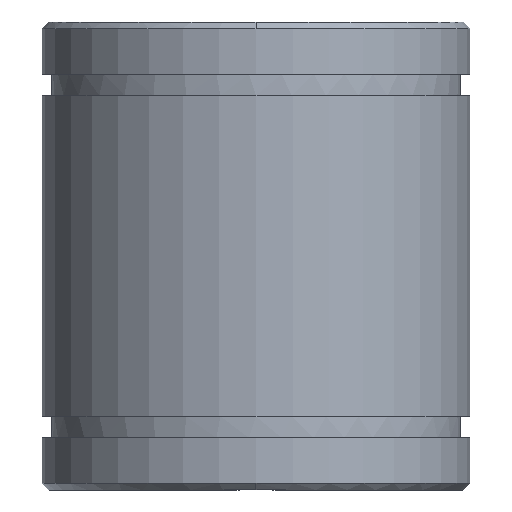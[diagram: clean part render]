
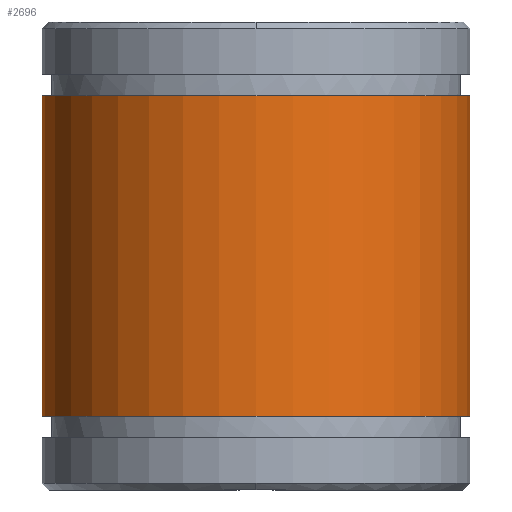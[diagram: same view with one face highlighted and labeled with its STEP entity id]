
A CAD part, front view. The second image highlights one B-rep face of the part: STEP entity #2696.
In plain terms, the highlighted cylindrical face has radius 16 mm (diameter 32 mm), a partial arc.
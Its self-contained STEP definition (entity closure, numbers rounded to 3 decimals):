
#2594=CARTESIAN_POINT('Axis2P3D Location',(0.,0.,5.5)) ;
#2598=CARTESIAN_POINT('Vertex',(-16.,0.,5.5)) ;
#2600=CARTESIAN_POINT('Vertex',(16.,0.,5.5)) ;
#2666=CARTESIAN_POINT('Axis2P3D Location',(0.,0.,-1.75)) ;
#2671=CARTESIAN_POINT('Line Origine',(-16.,0.,-1.75)) ;
#2675=CARTESIAN_POINT('Vertex',(-16.,0.,29.5)) ;
#2678=CARTESIAN_POINT('Line Origine',(16.,0.,-1.75)) ;
#2682=CARTESIAN_POINT('Vertex',(16.,0.,29.5)) ;
#2685=CARTESIAN_POINT('Axis2P3D Location',(0.,0.,29.5)) ;
#2595=DIRECTION('Axis2P3D Direction',(0.,0.,1.)) ;
#2667=DIRECTION('Axis2P3D Direction',(0.,0.,1.)) ;
#2668=DIRECTION('Axis2P3D XDirection',(-1.,0.,0.)) ;
#2672=DIRECTION('Vector Direction',(0.,0.,1.)) ;
#2679=DIRECTION('Vector Direction',(0.,0.,1.)) ;
#2686=DIRECTION('Axis2P3D Direction',(0.,0.,1.)) ;
#2596=AXIS2_PLACEMENT_3D('Circle Axis2P3D',#2594,#2595,$) ;
#2669=AXIS2_PLACEMENT_3D('Cylinder Axis2P3D',#2666,#2667,#2668) ;
#2687=AXIS2_PLACEMENT_3D('Circle Axis2P3D',#2685,#2686,$) ;
#2691=ORIENTED_EDGE('',*,*,#2677,.T.) ;
#2692=ORIENTED_EDGE('',*,*,#2602,.T.) ;
#2693=ORIENTED_EDGE('',*,*,#2684,.F.) ;
#2694=ORIENTED_EDGE('',*,*,#2689,.F.) ;
#2673=VECTOR('Line Direction',#2672,1.) ;
#2680=VECTOR('Line Direction',#2679,1.) ;
#2696=ADVANCED_FACE('MANIFOLD_SOLID_BREP #2066',(#2695),#2670,.T.) ;
#2597=CIRCLE('generated circle',#2596,16.) ;
#2688=CIRCLE('generated circle',#2687,16.) ;
#2670=CYLINDRICAL_SURFACE('generated cylinder',#2669,16.) ;
#2602=EDGE_CURVE('',#2599,#2601,#2597,.T.) ;
#2677=EDGE_CURVE('',#2676,#2599,#2674,.F.) ;
#2684=EDGE_CURVE('',#2683,#2601,#2681,.F.) ;
#2689=EDGE_CURVE('',#2676,#2683,#2688,.T.) ;
#2690=EDGE_LOOP('',(#2691,#2692,#2693,#2694)) ;
#2695=FACE_OUTER_BOUND('',#2690,.T.) ;
#2674=LINE('Line',#2671,#2673) ;
#2681=LINE('Line',#2678,#2680) ;
#2599=VERTEX_POINT('',#2598) ;
#2601=VERTEX_POINT('',#2600) ;
#2676=VERTEX_POINT('',#2675) ;
#2683=VERTEX_POINT('',#2682) ;
